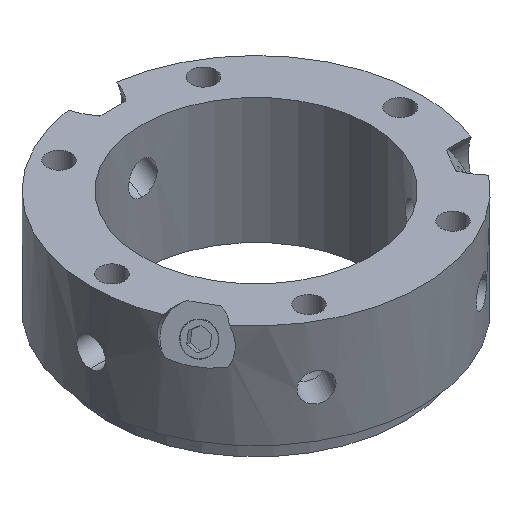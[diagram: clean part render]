
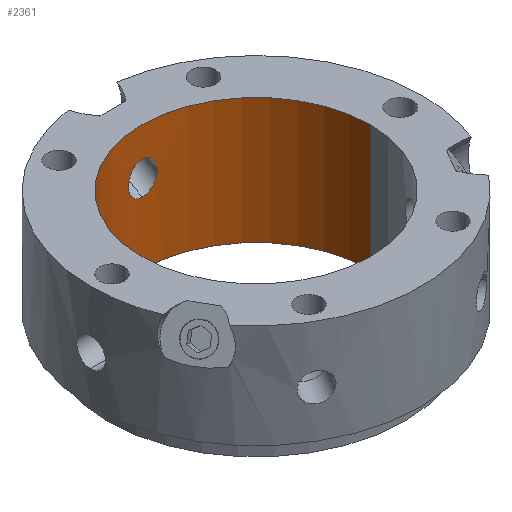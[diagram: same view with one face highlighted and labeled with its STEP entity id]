
A CAD part, isometric view. The second image highlights one B-rep face of the part: STEP entity #2361.
In plain terms, the highlighted cylindrical face has radius 20 mm (diameter 40 mm), a partial arc.
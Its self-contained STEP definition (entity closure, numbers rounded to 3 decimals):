
#2 = CARTESIAN_POINT ( 'NONE',  ( -2.506, 19.842, 53.531 ) ) ;
#12 = CARTESIAN_POINT ( 'NONE',  ( -1.736, 19.925, 51.787 ) ) ;
#53 = VERTEX_POINT ( 'NONE', #1435 ) ;
#56 = CARTESIAN_POINT ( 'NONE',  ( 0.179, 20., 51.03 ) ) ;
#60 = ORIENTED_EDGE ( 'NONE', *, *, #1756, .T. ) ;
#96 = CARTESIAN_POINT ( 'NONE',  ( 2.506, 19.842, 53.537 ) ) ;
#110 = CARTESIAN_POINT ( 'NONE',  ( 0., 20., 56.804 ) ) ;
#147 = CARTESIAN_POINT ( 'NONE',  ( -20., 0., 62. ) ) ;
#163 = DIRECTION ( 'NONE',  ( 0., 0., -1. ) ) ;
#192 = VECTOR ( 'NONE', #2893, 1000. ) ;
#258 = VERTEX_POINT ( 'NONE', #2482 ) ;
#295 = CARTESIAN_POINT ( 'NONE',  ( -1.609, 19.936, 51.662 ) ) ;
#342 = CARTESIAN_POINT ( 'NONE',  ( -0.866, 19.982, 51.191 ) ) ;
#462 = ORIENTED_EDGE ( 'NONE', *, *, #2287, .F. ) ;
#578 = VERTEX_POINT ( 'NONE', #1233 ) ;
#618 = CARTESIAN_POINT ( 'NONE',  ( -2.457, 19.849, 53.184 ) ) ;
#626 = CARTESIAN_POINT ( 'NONE',  ( 20., 0., 62. ) ) ;
#634 = CARTESIAN_POINT ( 'NONE',  ( -1.186, 19.965, 51.348 ) ) ;
#647 = CARTESIAN_POINT ( 'NONE',  ( -0.353, 19.998, 56.781 ) ) ;
#658 = ORIENTED_EDGE ( 'NONE', *, *, #1336, .F. ) ;
#703 = CARTESIAN_POINT ( 'NONE',  ( -20., 0., 62. ) ) ;
#721 = VECTOR ( 'NONE', #3830, 1000. ) ;
#1047 = CARTESIAN_POINT ( 'NONE',  ( 2.226, 19.876, 52.517 ) ) ;
#1102 = CARTESIAN_POINT ( 'NONE',  ( 0.861, 19.982, 56.624 ) ) ;
#1117 = CIRCLE ( 'NONE', #1448, 20. ) ;
#1133 = CARTESIAN_POINT ( 'NONE',  ( 0.698, 19.989, 56.69 ) ) ;
#1134 = CARTESIAN_POINT ( 'NONE',  ( 0., 0., 62. ) ) ;
#1206 = CARTESIAN_POINT ( 'NONE',  ( 0., 20., 51.03 ) ) ;
#1233 = CARTESIAN_POINT ( 'NONE',  ( 0., 20., 56.804 ) ) ;
#1245 = EDGE_LOOP ( 'NONE', ( #658, #1967, #60, #3146 ) ) ;
#1292 = CARTESIAN_POINT ( 'NONE',  ( -1.317, 19.957, 56.353 ) ) ;
#1304 = CARTESIAN_POINT ( 'NONE',  ( -0.7, 19.988, 51.132 ) ) ;
#1318 = CARTESIAN_POINT ( 'NONE',  ( -1.585, 19.938, 56.121 ) ) ;
#1336 = EDGE_CURVE ( 'NONE', #53, #258, #3090, .T. ) ;
#1344 = CARTESIAN_POINT ( 'NONE',  ( 1.623, 19.935, 51.65 ) ) ;
#1393 = CARTESIAN_POINT ( 'NONE',  ( 2.199, 19.879, 55.267 ) ) ;
#1435 = CARTESIAN_POINT ( 'NONE',  ( 20., 0., 62. ) ) ;
#1448 = AXIS2_PLACEMENT_3D ( 'NONE', #1134, #3665, #3638 ) ;
#1505 = AXIS2_PLACEMENT_3D ( 'NONE', #2619, #2588, #2941 ) ;
#1648 = CARTESIAN_POINT ( 'NONE',  ( 2.058, 19.894, 52.207 ) ) ;
#1712 = CARTESIAN_POINT ( 'NONE',  ( 1.171, 19.966, 56.455 ) ) ;
#1737 = CARTESIAN_POINT ( 'NONE',  ( 1.584, 19.938, 56.123 ) ) ;
#1756 = EDGE_CURVE ( 'NONE', #3997, #3410, #2870, .T. ) ;
#1794 = CARTESIAN_POINT ( 'NONE',  ( -20., 0., 40. ) ) ;
#1884 = CARTESIAN_POINT ( 'NONE',  ( -0.179, 20., 56.804 ) ) ;
#1920 = CARTESIAN_POINT ( 'NONE',  ( -0.861, 19.982, 56.624 ) ) ;
#1967 = ORIENTED_EDGE ( 'NONE', *, *, #3439, .F. ) ;
#1984 = EDGE_LOOP ( 'NONE', ( #2344, #462 ) ) ;
#1996 = CARTESIAN_POINT ( 'NONE',  ( 2.294, 19.868, 52.679 ) ) ;
#2007 = CARTESIAN_POINT ( 'NONE',  ( 2.431, 19.852, 54.595 ) ) ;
#2119 = VERTEX_POINT ( 'NONE', #1206 ) ;
#2127 = EDGE_CURVE ( 'NONE', #578, #2119, #2881, .T. ) ;
#2186 = CARTESIAN_POINT ( 'NONE',  ( -2.022, 19.898, 55.565 ) ) ;
#2199 = CARTESIAN_POINT ( 'NONE',  ( -2.493, 19.844, 54.243 ) ) ;
#2231 = CARTESIAN_POINT ( 'NONE',  ( 0., 20., 51.03 ) ) ;
#2251 = CYLINDRICAL_SURFACE ( 'NONE', #3394, 20. ) ;
#2272 = CARTESIAN_POINT ( 'NONE',  ( 0.697, 19.989, 51.131 ) ) ;
#2284 = CARTESIAN_POINT ( 'NONE',  ( 2.458, 19.849, 53.186 ) ) ;
#2287 = EDGE_CURVE ( 'NONE', #2119, #578, #3677, .T. ) ;
#2312 = CARTESIAN_POINT ( 'NONE',  ( 2.492, 19.844, 54.248 ) ) ;
#2329 = CARTESIAN_POINT ( 'NONE',  ( 2.034, 19.897, 55.576 ) ) ;
#2344 = ORIENTED_EDGE ( 'NONE', *, *, #2127, .F. ) ;
#2357 = CARTESIAN_POINT ( 'NONE',  ( 1.706, 19.927, 55.994 ) ) ;
#2361 = ADVANCED_FACE ( 'NONE', ( #2450, #2990 ), #2251, .F. ) ;
#2450 = FACE_OUTER_BOUND ( 'NONE', #1245, .T. ) ;
#2482 = CARTESIAN_POINT ( 'NONE',  ( 20., 0., 40. ) ) ;
#2539 = CARTESIAN_POINT ( 'NONE',  ( -0.694, 19.989, 56.691 ) ) ;
#2573 = CARTESIAN_POINT ( 'NONE',  ( -2.259, 19.872, 55.093 ) ) ;
#2588 = DIRECTION ( 'NONE',  ( 0., 0., 1. ) ) ;
#2619 = CARTESIAN_POINT ( 'NONE',  ( 0., 0., 40. ) ) ;
#2651 = CARTESIAN_POINT ( 'NONE',  ( 0., 0., 62. ) ) ;
#2831 = EDGE_CURVE ( 'NONE', #258, #3410, #2942, .T. ) ;
#2849 = CARTESIAN_POINT ( 'NONE',  ( -2.224, 19.876, 52.514 ) ) ;
#2864 = CARTESIAN_POINT ( 'NONE',  ( -1.335, 19.956, 51.443 ) ) ;
#2870 = LINE ( 'NONE', #703, #192 ) ;
#2879 = CARTESIAN_POINT ( 'NONE',  ( 0., 20., 56.804 ) ) ;
#2881 = B_SPLINE_CURVE_WITH_KNOTS ( 'NONE', 3,
 ( #2879, #1884, #647, #2539, #1920, #3141, #1292, #1318, #4046, #3196, #2186, #3508, #2573, #4061, #2199, #2, #618, #3154, #2849, #3480, #3790, #12, #295, #2864, #634, #342, #1304, #3499, #3808, #2231 ),
 .UNSPECIFIED., .F., .F.,
 ( 4, 2, 2, 2, 2, 2, 2, 2, 2, 2, 2, 2, 2, 2, 4 ),
 ( 0., 0.001, 0.001, 0.002, 0.002, 0.003, 0.003, 0.004, 0.005, 0.006, 0.006, 0.007, 0.007, 0.008, 0.008 ),
 .UNSPECIFIED. ) ;
#2893 = DIRECTION ( 'NONE',  ( 0., 0., -1. ) ) ;
#2936 = CARTESIAN_POINT ( 'NONE',  ( 0., 20., 51.03 ) ) ;
#2941 = DIRECTION ( 'NONE',  ( -1., 0., 0. ) ) ;
#2942 = CIRCLE ( 'NONE', #1505, 20. ) ;
#2971 = DIRECTION ( 'NONE',  ( -1., 0., 0. ) ) ;
#2990 = FACE_BOUND ( 'NONE', #1984, .T. ) ;
#3013 = CARTESIAN_POINT ( 'NONE',  ( 0.178, 20., 56.804 ) ) ;
#3090 = LINE ( 'NONE', #626, #721 ) ;
#3141 = CARTESIAN_POINT ( 'NONE',  ( -1.171, 19.966, 56.456 ) ) ;
#3146 = ORIENTED_EDGE ( 'NONE', *, *, #2831, .F. ) ;
#3154 = CARTESIAN_POINT ( 'NONE',  ( -2.294, 19.868, 52.678 ) ) ;
#3196 = CARTESIAN_POINT ( 'NONE',  ( -1.925, 19.907, 55.715 ) ) ;
#3221 = CARTESIAN_POINT ( 'NONE',  ( 1.341, 19.958, 51.423 ) ) ;
#3394 = AXIS2_PLACEMENT_3D ( 'NONE', #2651, #163, #2971 ) ;
#3410 = VERTEX_POINT ( 'NONE', #1794 ) ;
#3439 = EDGE_CURVE ( 'NONE', #3997, #53, #1117, .T. ) ;
#3480 = CARTESIAN_POINT ( 'NONE',  ( -2.058, 19.894, 52.206 ) ) ;
#3499 = CARTESIAN_POINT ( 'NONE',  ( -0.357, 19.998, 51.051 ) ) ;
#3508 = CARTESIAN_POINT ( 'NONE',  ( -2.188, 19.88, 55.255 ) ) ;
#3536 = CARTESIAN_POINT ( 'NONE',  ( 1.959, 19.904, 52.058 ) ) ;
#3556 = CARTESIAN_POINT ( 'NONE',  ( 0.353, 19.998, 51.051 ) ) ;
#3638 = DIRECTION ( 'NONE',  ( -1., 0., 0. ) ) ;
#3665 = DIRECTION ( 'NONE',  ( 0., 0., -1. ) ) ;
#3677 = B_SPLINE_CURVE_WITH_KNOTS ( 'NONE', 3,
 ( #2936, #56, #3556, #2272, #3875, #3221, #1344, #3536, #1648, #1047, #1996, #2284, #96, #2312, #2007, #1393, #2329, #2357, #1737, #3934, #1712, #1102, #1133, #3883, #3013, #110 ),
 .UNSPECIFIED., .F., .F.,
 ( 4, 2, 2, 2, 2, 2, 2, 2, 2, 2, 2, 2, 4 ),
 ( 0.008, 0.009, 0.009, 0.011, 0.011, 0.012, 0.013, 0.014, 0.015, 0.015, 0.016, 0.016, 0.017 ),
 .UNSPECIFIED. ) ;
#3790 = CARTESIAN_POINT ( 'NONE',  ( -1.961, 19.904, 52.06 ) ) ;
#3808 = CARTESIAN_POINT ( 'NONE',  ( -0.179, 20., 51.03 ) ) ;
#3830 = DIRECTION ( 'NONE',  ( 0., 0., -1. ) ) ;
#3875 = CARTESIAN_POINT ( 'NONE',  ( 0.866, 19.982, 51.191 ) ) ;
#3883 = CARTESIAN_POINT ( 'NONE',  ( 0.358, 19.998, 56.78 ) ) ;
#3934 = CARTESIAN_POINT ( 'NONE',  ( 1.318, 19.957, 56.353 ) ) ;
#3997 = VERTEX_POINT ( 'NONE', #147 ) ;
#4046 = CARTESIAN_POINT ( 'NONE',  ( -1.706, 19.927, 55.993 ) ) ;
#4061 = CARTESIAN_POINT ( 'NONE',  ( -2.432, 19.852, 54.589 ) ) ;
